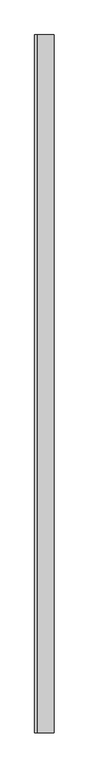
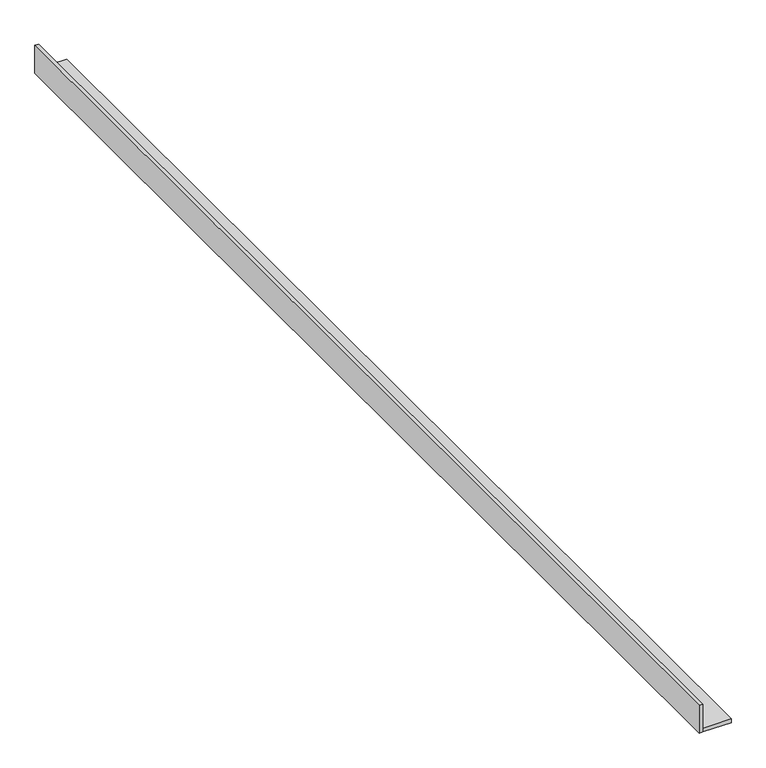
"""IFC4 building model written with IfcOpenShell, lengths in millimetres: proxy geometry, Wall-Panel-Kirei-Pulse_Fins : Pulse_2.75."""

from ifc_helpers import new_model, si_unit, origin, origin_with_axes, place, context, project, spatial, polyline, outline, extrude, source, transform, mapped, element, save


def specialty_equipment_6ce5719f(model_context):
    return source(origin(), model_context, "Body", "SweptSolid", [
        extrude(outline(polyline([(-600.5710938, 1371.6), (-600.5710938, -1371.6), (-609.6, -1371.6), (-609.6, 1371.6), (-600.5710938, 1371.6)])), origin_with_axes(), (0.0, 0.0, 1.0), 69.85),
        extrude(outline(polyline([(-533.5984375, 1371.6), (-533.5984375, -1371.6), (-600.5710937, -1371.6), (-600.5710937, 1371.6), (-533.5984375, 1371.6)])), origin_with_axes(), (0.0, 0.0, 1.0), 9.0289062),
    ])


if __name__ == "__main__":
    model = new_model("IFC4")
    model_context = context("Model", 3, world=origin())
    ifc_project = project(units=[si_unit("LENGTHUNIT", "METRE", prefix="MILLI")], contexts=[model_context])
    site = spatial("IfcSite", under=ifc_project)
    building = spatial("IfcBuilding", under=site)
    placement = place(None, origin())
    specialty_equipment_shape = specialty_equipment_6ce5719f(model_context)
    element("IfcBuildingElementProxy", 1, Name="Wall-Panel-Kirei-Pulse_Fins : Pulse_2.75", ObjectType="Wall-Panel-Kirei-Pulse_Fins : Pulse_2.75", at=placement, inside=building, context=model_context, shape_type="MappedRepresentation", body=[
        mapped(specialty_equipment_shape, transform((0.0, 0.0, 0.0), x_axis=(1.0, 0.0, 0.0), y_axis=(0.0, 1.0, 0.0), z_axis=(0.0, 0.0, 1.0))),
    ])
    save(model, "model.ifc")
